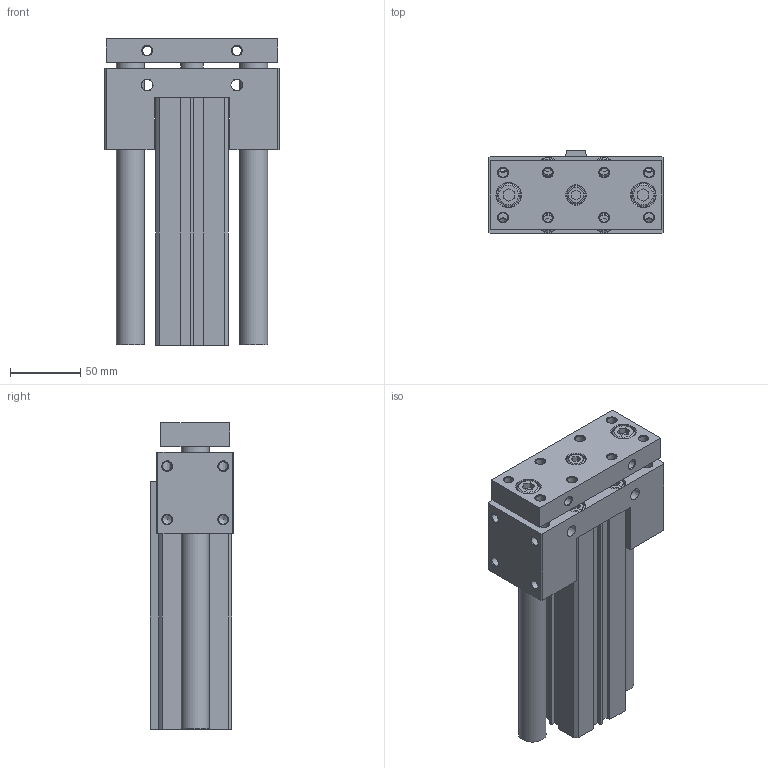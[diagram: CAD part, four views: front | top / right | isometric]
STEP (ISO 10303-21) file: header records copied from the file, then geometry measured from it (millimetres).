
FILE_DESCRIPTION((''),'2;1');
FILE_NAME('I:\3D電子目錄\氣缸\JCB\JCB\JCB40-S\JCB40x140-S.stp','2007-08-23T20:17:43',('Administrator'),(''),'Autodesk Inventor 11','Autodesk Inventor 11','');
FILE_SCHEMA(('AUTOMOTIVE_DESIGN { 1 0 10303 214 1 1 1 1 }'));
Length unit declared in the file: millimetre
Products named in the file (1): JCB40
Bounding box: 124 x 59.5 x 218.5 mm (x, y, z)
Volume: 864906.9 mm3; surface area: 172753.2 mm2
Topology: 3 solids, 3 shells, 303 faces, 731 edges, 473 vertices
Faces by surface type: plane 163, cylinder 52, cone 47, bspline 33, torus 8
Full cylindrical faces by diameter (mm): 2.2 x2, 6.647 x4, 6.8 x4, 10 x8, 13 x5, 14 x5, 16 x3, 17 x1, 17.5 x2, 20 x2, 23 x2, 28 x1, 29 x1, 42 x4, 44.5 x2
Entity records: 8528 total; most frequent: CARTESIAN_POINT 2090, DIRECTION 1302, ORIENTED_EDGE 1114, EDGE_CURVE 557, EDGE_LOOP 522, AXIS2_PLACEMENT_3D 480, VERTEX_POINT 435, VECTOR 342
